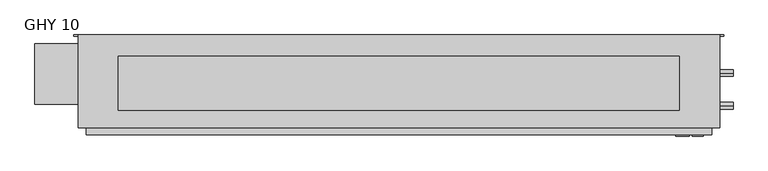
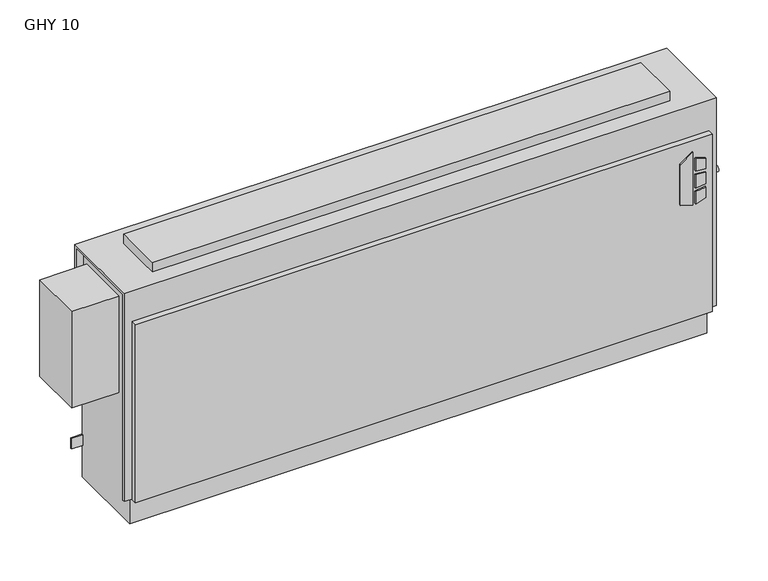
"""IFC4 building model written with IfcOpenShell, lengths in millimetres: proxy geometry, Vertical_Fan_Coil_Unit_-_GHY_-_IEC_-_2-Pipe_TS-FR_RH_2022 : GHY 10."""

from ifc_helpers import new_model, si_unit, point, frame, frame_2d, origin, place, context, project, spatial, polyline, circle_curve, trimmed, segment, composite_curve, outline, extrude, source, transform, mapped, element, save
from ifc_brep_helpers import plane_surface, revolved_surface, advanced_brep


def ghy_10_05654b98(model_context):
    return source(origin(), model_context, "Body", "SolidModel", [
        extrude(outline(polyline([(391.6086829, 804.9368862), (381.6606126, 837.1102728), (523.831537, 837.1102728), (500.8095309, 804.9368862), (391.6086829, 804.9368862)])), frame((0.0, 6.35, 0.0), z_axis=(0.0, 1.0, 0.0), x_axis=(0.0, 0.0, 1.0)), (0.0, 0.0, 1.0), 3.175),
        extrude(outline(polyline([(470.6079683, 843.8686058), (467.4055757, 869.95), (496.6344168, 869.95), (504.6988318, 843.8686058), (470.6079683, 843.8686058)])), frame((0.0, 6.35, 0.0), z_axis=(0.0, 1.0, 0.0), x_axis=(0.0, 0.0, 1.0)), (0.0, 0.0, 1.0), 3.175),
        extrude(outline(polyline([(418.7444414, 869.95), (415.0789404, 843.8686058), (381.6606126, 843.8686058), (390.2948498, 869.95), (418.7444414, 869.95)])), frame((0.0, 6.35, 0.0), z_axis=(0.0, 1.0, 0.0), x_axis=(0.0, 0.0, 1.0)), (0.0, 0.0, 1.0), 3.175),
        extrude(outline(polyline([(458.0596028, 869.95), (460.3414292, 843.8686058), (424.4038806, 843.8686058), (427.1451456, 869.95), (458.0596028, 869.95)])), frame((0.0, 6.35, 0.0), z_axis=(0.0, 1.0, 0.0), x_axis=(0.0, 0.0, 1.0)), (0.0, 0.0, 1.0), 3.175),
        extrude(outline(polyline([(812.8, 193.675), (812.8, 66.675), (-508.0, 66.675), (-508.0, 193.675), (812.8, 193.675)])), frame((0.0, 0.0, 635.0), z_axis=(0.0, 0.0, 1.0), x_axis=(1.0, 0.0, 0.0)), (0.0, 0.0, 1.0), 25.4),
        extrude(outline(composite_curve([segment(trimmed(circle_curve(frame_2d((77.597, 401.574)), 7.9375), [point((77.597, 393.6365))], [point((77.597, 409.5115))], False, "CARTESIAN"), True, "CONTINUOUS"), segment(trimmed(circle_curve(frame_2d((77.597, 401.574)), 7.9375), [point((77.597, 409.5115))], [point((77.597, 393.6365))], False, "CARTESIAN"), True, "CONTINUOUS")], self_intersect=False)), frame((889.0, 0.0, 0.0), z_axis=(1.0, 0.0, 0.0), x_axis=(0.0, 1.0, 0.0)), (0.0, 0.0, 1.0), 50.8),
        extrude(outline(composite_curve([segment(trimmed(circle_curve(frame_2d((154.559, 540.512)), 7.9375), [point((154.559, 532.5745))], [point((154.559, 548.4495))], False, "CARTESIAN"), True, "CONTINUOUS"), segment(trimmed(circle_curve(frame_2d((154.559, 540.512)), 7.9375), [point((154.559, 548.4495))], [point((154.559, 532.5745))], False, "CARTESIAN"), True, "CONTINUOUS")], self_intersect=False)), frame((889.0, 0.0, 0.0), z_axis=(1.0, 0.0, 0.0), x_axis=(0.0, 1.0, 0.0)), (0.0, 0.0, 1.0), 50.8),
        extrude(outline(polyline([(-704.85, 223.266), (-584.2, 223.266), (-584.2, 81.534), (-704.85, 81.534), (-704.85, 223.266)])), frame((0.0, 0.0, 327.025), z_axis=(0.0, 0.0, 1.0), x_axis=(1.0, 0.0, 0.0)), (0.0, 0.0, 1.0), 260.35),
        advanced_brep(
        [(908.05, 244.475, 635.0), (-603.25, 244.475, 635.0), (-603.25, 25.4, 635.0), (908.05, 25.4, 635.0), (-584.2, 244.475, 0.0), (889.0, 244.475, 0.0), (889.0, 34.925, 0.0), (-584.2, 34.925, 0.0), (908.05, 244.475, 558.8), (889.0, 244.475, 558.8), (889.0, 244.475, 414.3375), (917.575, 244.475, 414.3375), (917.575, 244.475, 385.7625), (889.0, 244.475, 385.7625), (889.0, 244.475, 287.3375), (917.575, 244.475, 287.3375), (917.575, 244.475, 258.7625), (889.0, 244.475, 258.7625), (889.0, 244.475, 141.2875), (917.575, 244.475, 141.2875), (917.575, 244.475, 112.7125), (889.0, 244.475, 112.7125), (-584.2, 244.475, 87.3125), (-612.775, 244.475, 87.3125), (-612.775, 244.475, 115.8875), (-584.2, 244.475, 115.8875), (-584.2, 244.475, 258.7625), (-612.775, 244.475, 258.7625), (-612.775, 244.475, 287.3375), (-584.2, 244.475, 287.3375), (-584.2, 244.475, 385.7625), (-612.775, 244.475, 385.7625), (-612.775, 244.475, 414.3375), (-584.2, 244.475, 414.3375), (-584.2, 244.475, 558.8), (-603.25, 244.475, 558.8), (907.2626, 244.475, 127.0), (896.1374, 244.475, 127.0), (907.2626, 244.475, 273.05), (896.1374, 244.475, 273.05), (-591.3374, 244.475, 273.05), (-602.4626, 244.475, 273.05), (907.2626, 244.475, 400.05), (896.1374, 244.475, 400.05), (-591.3374, 244.475, 400.05), (-602.4626, 244.475, 400.05), (-603.25, 238.125, 558.8), (-603.25, 238.125, 628.65), (-603.25, 31.75, 628.65), (-603.25, 31.75, 73.025), (-603.25, 25.4, 73.025), (889.0, 9.525, 552.45), (-584.2, 9.525, 552.45), (-584.2, 9.525, 73.025), (889.0, 9.525, 73.025), (908.05, 25.4, 73.025), (908.05, 31.75, 73.025), (908.05, 31.75, 628.65), (908.05, 238.125, 628.65), (908.05, 238.125, 558.8), (-584.2, 25.4, 73.025), (-584.2, 25.4, 552.45), (889.0, 25.4, 552.45), (889.0, 25.4, 73.025), (-584.2, 31.75, 73.025), (-584.2, 34.925, 73.025), (889.0, 34.925, 73.025), (889.0, 31.75, 73.025), (889.0, 241.3, 112.7125), (889.0, 241.3, 141.2875), (889.0, 241.3, 258.7625), (889.0, 241.3, 287.3375), (889.0, 241.3, 385.7625), (889.0, 241.3, 414.3375), (889.0, 238.125, 558.8), (889.0, 238.125, 628.65), (889.0, 31.75, 628.65), (-584.2, 31.75, 628.65), (-584.2, 238.125, 628.65), (-584.2, 238.125, 558.8), (-584.2, 241.3, 414.3375), (-584.2, 241.3, 385.7625), (-584.2, 241.3, 287.3375), (-584.2, 241.3, 258.7625), (-584.2, 241.3, 115.8875), (-584.2, 241.3, 87.3125), (917.575, 241.3, 112.7125), (917.575, 241.3, 141.2875), (896.1374, 241.3, 127.0), (907.2626, 241.3, 127.0), (917.575, 241.3, 258.7625), (917.575, 241.3, 287.3375), (896.1374, 241.3, 273.05), (907.2626, 241.3, 273.05), (917.575, 241.3, 385.7625), (917.575, 241.3, 414.3375), (896.1374, 241.3, 400.05), (907.2626, 241.3, 400.05), (-612.775, 241.3, 115.8875), (-612.775, 241.3, 87.3125), (-612.775, 241.3, 287.3375), (-612.775, 241.3, 258.7625), (-602.4626, 241.3, 273.05), (-591.3374, 241.3, 273.05), (-612.775, 241.3, 414.3375), (-612.775, 241.3, 385.7625), (-602.4626, 241.3, 400.05), (-591.3374, 241.3, 400.05)],
        [
            (0, 1),
            (1, 2),
            (2, 3),
            (3, 0),
            (4, 5),
            (5, 6),
            (6, 7),
            (7, 4),
            (0, 8),
            (8, 9),
            (9, 10),
            (10, 11),
            (11, 12),
            (12, 13),
            (13, 14),
            (14, 15),
            (15, 16),
            (16, 17),
            (17, 18),
            (18, 19),
            (19, 20),
            (20, 21),
            (21, 5),
            (4, 22),
            (22, 23),
            (23, 24),
            (24, 25),
            (25, 26),
            (26, 27),
            (27, 28),
            (28, 29),
            (29, 30),
            (30, 31),
            (31, 32),
            (32, 33),
            (33, 34),
            (34, 35),
            (35, 1),
            (36, 37, circle_curve(frame((901.7, 244.475, 127.0), z_axis=(0.0, -1.0, 0.0), x_axis=(-1.0, 0.0, 0.0)), 5.5626)),
            (37, 36, circle_curve(frame((901.7, 244.475, 127.0), z_axis=(0.0, -1.0, 0.0), x_axis=(-1.0, 0.0, 0.0)), 5.5626)),
            (38, 39, circle_curve(frame((901.7, 244.475, 273.05), z_axis=(0.0, -1.0, 0.0), x_axis=(-1.0, 0.0, 0.0)), 5.5626)),
            (39, 38, circle_curve(frame((901.7, 244.475, 273.05), z_axis=(0.0, -1.0, 0.0), x_axis=(-1.0, 0.0, 0.0)), 5.5626)),
            (40, 41, circle_curve(frame((-596.9, 244.475, 273.05), z_axis=(0.0, -1.0, 0.0), x_axis=(-1.0, 0.0, 0.0)), 5.5626)),
            (41, 40, circle_curve(frame((-596.9, 244.475, 273.05), z_axis=(0.0, -1.0, 0.0), x_axis=(-1.0, 0.0, 0.0)), 5.5626)),
            (42, 43, circle_curve(frame((901.7, 244.475, 400.05), z_axis=(0.0, -1.0, 0.0), x_axis=(-1.0, 0.0, 0.0)), 5.5626)),
            (43, 42, circle_curve(frame((901.7, 244.475, 400.05), z_axis=(0.0, -1.0, 0.0), x_axis=(-1.0, 0.0, 0.0)), 5.5626)),
            (44, 45, circle_curve(frame((-596.9, 244.475, 400.05), z_axis=(0.0, -1.0, 0.0), x_axis=(-1.0, 0.0, 0.0)), 5.5626)),
            (45, 44, circle_curve(frame((-596.9, 244.475, 400.05), z_axis=(0.0, -1.0, 0.0), x_axis=(-1.0, 0.0, 0.0)), 5.5626)),
            (35, 46),
            (46, 47),
            (47, 48),
            (48, 49),
            (49, 50),
            (50, 2),
            (51, 52),
            (52, 53),
            (53, 54),
            (54, 51),
            (3, 55),
            (55, 56),
            (56, 57),
            (57, 58),
            (58, 59),
            (59, 8),
            (50, 60),
            (60, 61),
            (61, 62),
            (62, 63),
            (63, 55),
            (51, 62),
            (61, 52),
            (53, 60),
            (49, 64),
            (64, 65),
            (65, 66),
            (66, 67),
            (67, 56),
            (63, 54),
            (6, 66),
            (65, 7),
            (21, 68),
            (68, 69),
            (69, 18),
            (17, 70),
            (70, 71),
            (71, 14),
            (13, 72),
            (72, 73),
            (73, 10),
            (9, 74),
            (74, 75),
            (75, 76),
            (76, 67),
            (64, 77),
            (77, 78),
            (78, 79),
            (79, 34),
            (33, 80),
            (80, 81),
            (81, 30),
            (29, 82),
            (82, 83),
            (83, 26),
            (25, 84),
            (84, 85),
            (85, 22),
            (74, 59),
            (58, 75),
            (76, 57),
            (48, 77),
            (79, 46),
            (78, 47),
            (68, 86),
            (86, 87),
            (87, 69),
            (88, 89, circle_curve(frame((901.7, 241.3, 127.0), z_axis=(0.0, 1.0, 0.0), x_axis=(-1.0, 0.0, 0.0)), 5.5626)),
            (89, 88, circle_curve(frame((901.7, 241.3, 127.0), z_axis=(0.0, 1.0, 0.0), x_axis=(-1.0, 0.0, 0.0)), 5.5626)),
            (90, 91),
            (91, 71),
            (70, 90),
            (92, 93, circle_curve(frame((901.7, 241.3, 273.05), z_axis=(0.0, 1.0, 0.0), x_axis=(-1.0, 0.0, 0.0)), 5.5626)),
            (93, 92, circle_curve(frame((901.7, 241.3, 273.05), z_axis=(0.0, 1.0, 0.0), x_axis=(-1.0, 0.0, 0.0)), 5.5626)),
            (94, 95),
            (95, 73),
            (72, 94),
            (96, 97, circle_curve(frame((901.7, 241.3, 400.05), z_axis=(0.0, 1.0, 0.0), x_axis=(-1.0, 0.0, 0.0)), 5.5626)),
            (97, 96, circle_curve(frame((901.7, 241.3, 400.05), z_axis=(0.0, 1.0, 0.0), x_axis=(-1.0, 0.0, 0.0)), 5.5626)),
            (98, 99),
            (99, 85),
            (84, 98),
            (82, 100),
            (100, 101),
            (101, 83),
            (102, 103, circle_curve(frame((-596.9, 241.3, 273.05), z_axis=(0.0, 1.0, 0.0), x_axis=(-1.0, 0.0, 0.0)), 5.5626)),
            (103, 102, circle_curve(frame((-596.9, 241.3, 273.05), z_axis=(0.0, 1.0, 0.0), x_axis=(-1.0, 0.0, 0.0)), 5.5626)),
            (104, 105),
            (105, 81),
            (80, 104),
            (106, 107, circle_curve(frame((-596.9, 241.3, 400.05), z_axis=(0.0, 1.0, 0.0), x_axis=(-1.0, 0.0, 0.0)), 5.5626)),
            (107, 106, circle_curve(frame((-596.9, 241.3, 400.05), z_axis=(0.0, 1.0, 0.0), x_axis=(-1.0, 0.0, 0.0)), 5.5626)),
            (87, 19),
            (86, 20),
            (16, 90),
            (91, 15),
            (12, 94),
            (95, 11),
            (24, 98),
            (99, 23),
            (101, 27),
            (100, 28),
            (32, 104),
            (105, 31),
            (88, 37),
            (36, 89),
            (92, 39),
            (38, 93),
            (102, 41),
            (40, 103),
            (96, 43),
            (42, 97),
            (106, 45),
            (44, 107),
        ],
        [
            plane_surface(frame((-603.25, 244.475, 635.0), z_axis=(0.0, 0.0, 1.0), x_axis=(-1.0, 0.0, 0.0))),
            plane_surface(frame((-603.25, 244.475, 0.0), z_axis=(0.0, 0.0, -1.0), x_axis=(1.0, 0.0, 0.0))),
            plane_surface(frame((908.05, 244.475, 635.0), z_axis=(0.0, 1.0, 0.0), x_axis=(0.0, 0.0, -1.0))),
            plane_surface(frame((-603.25, 244.475, 635.0), z_axis=(-1.0, 0.0, 0.0), x_axis=(0.0, 0.0, -1.0))),
            plane_surface(frame((-603.25, 9.525, 635.0), z_axis=(0.0, -1.0, 0.0), x_axis=(0.0, 0.0, -1.0))),
            plane_surface(frame((908.05, 9.525, 635.0), z_axis=(1.0, 0.0, 0.0), x_axis=(0.0, 0.0, -1.0))),
            plane_surface(frame((-1060.45, 25.4, 635.0), z_axis=(0.0, -1.0, 0.0), x_axis=(1.0, 0.0, 0.0))),
            plane_surface(frame((-1060.45, 25.4, 552.45), z_axis=(0.0, 0.0, 1.0), x_axis=(1.0, 0.0, 0.0))),
            plane_surface(frame((-603.25, 9.525, 73.025), z_axis=(0.0, 0.0, -1.0), x_axis=(1.0, 0.0, 0.0))),
            plane_surface(frame((-603.25, 34.925, 73.025), z_axis=(0.0, -1.0, 0.0), x_axis=(1.0, 0.0, 0.0))),
            plane_surface(frame((889.0, 25.4, 73.025), z_axis=(1.0, 0.0, 0.0), x_axis=(0.0, -1.0, 0.0))),
            plane_surface(frame((-584.2, 25.4, 552.45), z_axis=(-1.0, 0.0, 0.0), x_axis=(0.0, -1.0, 0.0))),
            plane_surface(frame((889.0, 244.475, 0.0), z_axis=(1.0, 0.0, 0.0), x_axis=(0.0, -1.0, 0.0))),
            plane_surface(frame((-584.2, 244.475, 73.025), z_axis=(-1.0, 0.0, 0.0), x_axis=(0.0, -1.0, 0.0))),
            plane_surface(frame((889.0, 238.125, 628.65), z_axis=(0.0, -1.0, 0.0), x_axis=(1.0, 0.0, 0.0))),
            plane_surface(frame((889.0, 238.125, 558.8), z_axis=(0.0, 0.0, -1.0), x_axis=(1.0, 0.0, 0.0))),
            plane_surface(frame((889.0, 31.75, 73.025), z_axis=(0.0, 1.0, 0.0), x_axis=(1.0, 0.0, 0.0))),
            plane_surface(frame((889.0, 31.75, 628.65), z_axis=(0.0, 0.0, -1.0), x_axis=(1.0, 0.0, 0.0))),
            plane_surface(frame((-584.2, 31.75, 628.65), z_axis=(0.0, 1.0, 0.0), x_axis=(-1.0, 0.0, 0.0))),
            plane_surface(frame((-584.2, 244.475, 558.8), z_axis=(0.0, 0.0, -1.0), x_axis=(-1.0, 0.0, 0.0))),
            plane_surface(frame((-584.2, 238.125, 558.8), z_axis=(0.0, -1.0, 0.0), x_axis=(-1.0, 0.0, 0.0))),
            plane_surface(frame((-584.2, 238.125, 628.65), z_axis=(0.0, 0.0, -1.0), x_axis=(-1.0, 0.0, 0.0))),
            plane_surface(frame((917.575, 241.3, 141.2875), z_axis=(0.0, -1.0, 0.0), x_axis=(-1.0, 0.0, 0.0))),
            plane_surface(frame((889.0, 244.475, 141.2875), z_axis=(0.0, 0.0, 1.0), x_axis=(0.0, -1.0, 0.0))),
            plane_surface(frame((917.575, 244.475, 141.2875), z_axis=(1.0, 0.0, 0.0), x_axis=(0.0, -1.0, 0.0))),
            plane_surface(frame((917.575, 244.475, 112.7125), z_axis=(0.0, 0.0, -1.0), x_axis=(0.0, -1.0, 0.0))),
            plane_surface(frame((917.575, 244.475, 258.7625), z_axis=(0.0, 0.0, -1.0), x_axis=(0.0, -1.0, 0.0))),
            plane_surface(frame((889.0, 244.475, 287.3375), z_axis=(0.0, 0.0, 1.0), x_axis=(0.0, -1.0, 0.0))),
            plane_surface(frame((917.575, 244.475, 287.3375), z_axis=(1.0, 0.0, 0.0), x_axis=(0.0, -1.0, 0.0))),
            plane_surface(frame((917.575, 244.475, 385.7625), z_axis=(0.0, 0.0, -1.0), x_axis=(0.0, -1.0, 0.0))),
            plane_surface(frame((889.0, 244.475, 414.3375), z_axis=(0.0, 0.0, 1.0), x_axis=(0.0, -1.0, 0.0))),
            plane_surface(frame((917.575, 244.475, 414.3375), z_axis=(1.0, 0.0, 0.0), x_axis=(0.0, -1.0, 0.0))),
            plane_surface(frame((-612.775, 244.475, 115.8875), z_axis=(0.0, 0.0, 1.0), x_axis=(0.0, -1.0, 0.0))),
            plane_surface(frame((-584.2, 244.475, 87.3125), z_axis=(0.0, 0.0, -1.0), x_axis=(0.0, -1.0, 0.0))),
            plane_surface(frame((-612.775, 244.475, 87.3125), z_axis=(-1.0, 0.0, 0.0), x_axis=(0.0, -1.0, 0.0))),
            plane_surface(frame((-584.2, 244.475, 258.7625), z_axis=(0.0, 0.0, -1.0), x_axis=(0.0, -1.0, 0.0))),
            plane_surface(frame((-612.775, 244.475, 258.7625), z_axis=(-1.0, 0.0, 0.0), x_axis=(0.0, -1.0, 0.0))),
            plane_surface(frame((-612.775, 244.475, 287.3375), z_axis=(0.0, 0.0, 1.0), x_axis=(0.0, -1.0, 0.0))),
            plane_surface(frame((-612.775, 244.475, 414.3375), z_axis=(0.0, 0.0, 1.0), x_axis=(0.0, -1.0, 0.0))),
            plane_surface(frame((-584.2, 244.475, 385.7625), z_axis=(0.0, 0.0, -1.0), x_axis=(0.0, -1.0, 0.0))),
            plane_surface(frame((-612.775, 244.475, 385.7625), z_axis=(-1.0, 0.0, 0.0), x_axis=(0.0, -1.0, 0.0))),
            revolved_surface(polyline([(896.1374000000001, 241.3, 127.0), (896.1374000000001, 244.475, 127.0)]), (901.7, 244.475, 127.0), (0.0, -1.0, 0.0)),
            revolved_surface(polyline([(896.1374000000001, 241.3, 273.05), (896.1374000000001, 244.475, 273.05)]), (901.7, 244.475, 273.05), (0.0, -1.0, 0.0)),
            revolved_surface(polyline([(-602.4626, 241.3, 273.05), (-602.4626, 244.475, 273.05)]), (-596.9, 244.475, 273.05), (0.0, -1.0, 0.0)),
            revolved_surface(polyline([(896.1374000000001, 241.3, 400.05), (896.1374000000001, 244.475, 400.05)]), (901.7, 244.475, 400.05), (0.0, -1.0, 0.0)),
            revolved_surface(polyline([(-602.4626, 241.3, 400.05), (-602.4626, 244.475, 400.05)]), (-596.9, 244.475, 400.05), (0.0, -1.0, 0.0)),
        ],
        [
            (0, [[1, 2, 3, 4]]),
            (1, [[5, 6, 7, 8]]),
            (2, [[-1, 9, 10, 11, 12, 13, 14, 15, 16, 17, 18, 19, 20, 21, 22, 23, -5, 24, 25, 26, 27, 28, 29, 30, 31, 32, 33, 34, 35, 36, 37, 38], [39, 40], [41, 42], [43, 44], [45, 46], [47, 48]]),
            (3, [[-2, -38, 49, 50, 51, 52, 53, 54]]),
            (4, [[55, 56, 57, 58]]),
            (5, [[-4, 59, 60, 61, 62, 63, 64, -9]]),
            (6, [[-3, -54, 65, 66, 67, 68, 69, -59]]),
            (7, [[-55, 70, -67, 71]]),
            (8, [[-57, 72, -65, -53, 73, 74, 75, 76, 77, -60, -69, 78]]),
            (9, [[-7, 79, -75, 80]]),
            (10, [[-68, -70, -58, -78]]),
            (11, [[-66, -72, -56, -71]]),
            (12, [[-6, -23, 81, 82, 83, -19, 84, 85, 86, -15, 87, 88, 89, -11, 90, 91, 92, 93, -76, -79]]),
            (13, [[-8, -80, -74, 94, 95, 96, 97, -36, 98, 99, 100, -32, 101, 102, 103, -28, 104, 105, 106, -24]]),
            (14, [[-91, 107, -63, 108]]),
            (15, [[-90, -10, -64, -107]]),
            (16, [[-93, 109, -61, -77]]),
            (17, [[-92, -108, -62, -109]]),
            (18, [[-94, -73, -52, 110]]),
            (19, [[-97, 111, -49, -37]]),
            (20, [[-96, 112, -50, -111]]),
            (21, [[-95, -110, -51, -112]]),
            (22, [[113, 114, 115, -82], [116, 117]]),
            (22, [[118, 119, -85, 120], [121, 122]]),
            (22, [[123, 124, -88, 125], [126, 127]]),
            (22, [[128, 129, -105, 130]]),
            (22, [[131, 132, 133, -102], [134, 135]]),
            (22, [[136, 137, -99, 138], [139, 140]]),
            (23, [[-115, 141, -20, -83]]),
            (24, [[-114, 142, -21, -141]]),
            (25, [[-113, -81, -22, -142]]),
            (26, [[-120, -84, -18, 143]]),
            (27, [[-119, 144, -16, -86]]),
            (28, [[-118, -143, -17, -144]]),
            (29, [[-125, -87, -14, 145]]),
            (30, [[-124, 146, -12, -89]]),
            (31, [[-123, -145, -13, -146]]),
            (32, [[-130, -104, -27, 147]]),
            (33, [[-129, 148, -25, -106]]),
            (34, [[-128, -147, -26, -148]]),
            (35, [[-133, 149, -29, -103]]),
            (36, [[-132, 150, -30, -149]]),
            (37, [[-131, -101, -31, -150]]),
            (38, [[-138, -98, -35, 151]]),
            (39, [[-137, 152, -33, -100]]),
            (40, [[-136, -151, -34, -152]]),
            (41, [[153, -39, 154, -116]]),
            (41, [[-153, -117, -154, -40]]),
            (42, [[155, -41, 156, -121]]),
            (42, [[-155, -122, -156, -42]]),
            (43, [[157, -43, 158, -134]]),
            (43, [[-157, -135, -158, -44]]),
            (44, [[159, -45, 160, -126]]),
            (44, [[-159, -127, -160, -46]]),
            (45, [[161, -47, 162, -139]]),
            (45, [[-161, -140, -162, -48]]),
        ],
    ),
    ])


if __name__ == "__main__":
    model = new_model("IFC4")
    model_context = context("Model", 3, world=origin())
    ifc_project = project(units=[si_unit("LENGTHUNIT", "METRE", prefix="MILLI")], contexts=[model_context])
    site = spatial("IfcSite", under=ifc_project)
    building = spatial("IfcBuilding", under=site)
    placement = place(None, origin())
    ghy_10_shape = ghy_10_05654b98(model_context)
    element("IfcBuildingElementProxy", 1, Name="Vertical_Fan_Coil_Unit_-_GHY_-_IEC_-_2-Pipe_TS-FR_RH_2022 : GHY 10", ObjectType="Vertical_Fan_Coil_Unit_-_GHY_-_IEC_-_2-Pipe_TS-FR_RH_2022 : GHY 10", at=placement, inside=building, context=model_context, shape_type="MappedRepresentation", body=[
        mapped(ghy_10_shape, transform((0.0, 0.0, 0.0), x_axis=(1.0, 0.0, 0.0), y_axis=(0.0, 1.0, 0.0), z_axis=(0.0, 0.0, 1.0))),
    ])
    save(model, "model.ifc")
